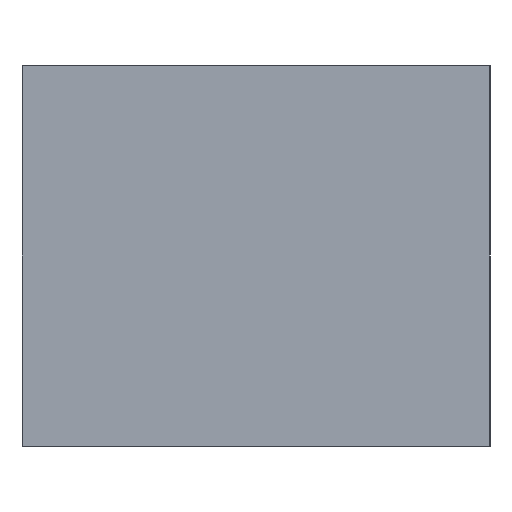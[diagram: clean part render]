
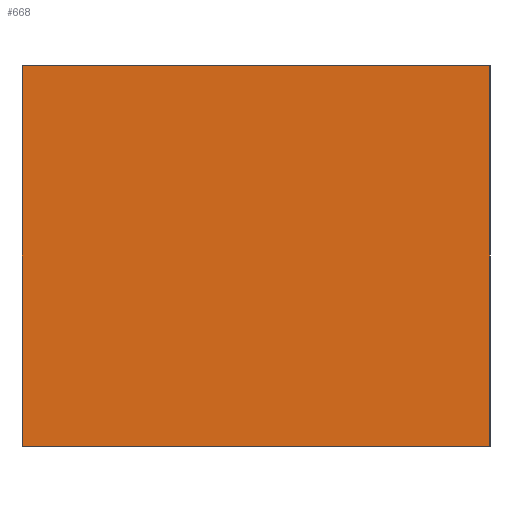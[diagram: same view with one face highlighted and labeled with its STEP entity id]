
A CAD part, left-side view. The second image highlights one B-rep face of the part: STEP entity #668.
In plain terms, the highlighted planar face has unit normal (-1, 0, 0).
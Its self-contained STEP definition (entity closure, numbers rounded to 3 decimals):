
#430=CARTESIAN_POINT('',(-0.8,-0.4,-0.));
#431=VERTEX_POINT('',#430);
#432=CARTESIAN_POINT('',(-0.8,-0.4,0.65));
#433=VERTEX_POINT('',#432);
#434=CARTESIAN_POINT('',(-0.8,-0.4,-0.));
#435=CARTESIAN_POINT('',(-0.8,-0.4,0.65));
#436=B_SPLINE_CURVE_WITH_KNOTS('',1,(#434,#435),.UNSPECIFIED.,.F.,.F.,(2,2),(0.,1.),.UNSPECIFIED.);
#437=EDGE_CURVE('',#431,#433,#436,.T.);
#494=CARTESIAN_POINT('',(-0.8,0.4,0.65));
#495=VERTEX_POINT('',#494);
#496=CARTESIAN_POINT('',(-0.8,0.4,-0.));
#497=VERTEX_POINT('',#496);
#498=CARTESIAN_POINT('',(-0.8,0.4,0.65));
#499=CARTESIAN_POINT('',(-0.8,0.4,0.));
#500=B_SPLINE_CURVE_WITH_KNOTS('',1,(#498,#499),.UNSPECIFIED.,.F.,.F.,(2,2),(0.,1.),.UNSPECIFIED.);
#501=EDGE_CURVE('',#495,#497,#500,.T.);
#645=CARTESIAN_POINT('',(-0.8,-0.4,-0.));
#646=CARTESIAN_POINT('',(-0.8,0.4,-0.));
#647=B_SPLINE_CURVE_WITH_KNOTS('',1,(#645,#646),.UNSPECIFIED.,.F.,.F.,(2,2),(0.,1.),.UNSPECIFIED.);
#648=EDGE_CURVE('',#431,#497,#647,.T.);
#653=CARTESIAN_POINT('',(-0.8,0.,0.325));
#654=DIRECTION('',(-1.,0.,0.));
#655=DIRECTION('',(0.,0.776,0.631));
#656=AXIS2_PLACEMENT_3D('',#653,#654,#655);
#657=PLANE('',#656);
#658=ORIENTED_EDGE('',*,*,#501,.T.);
#659=ORIENTED_EDGE('',*,*,#648,.F.);
#660=ORIENTED_EDGE('',*,*,#437,.T.);
#661=CARTESIAN_POINT('',(-0.8,-0.4,0.65));
#662=CARTESIAN_POINT('',(-0.8,0.4,0.65));
#663=B_SPLINE_CURVE_WITH_KNOTS('',1,(#661,#662),.UNSPECIFIED.,.F.,.F.,(2,2),(0.,1.),.UNSPECIFIED.);
#664=EDGE_CURVE('',#433,#495,#663,.T.);
#665=ORIENTED_EDGE('',*,*,#664,.T.);
#666=EDGE_LOOP('',(#658,#659,#660,#665));
#667=FACE_BOUND('',#666,.T.);
#668=ADVANCED_FACE(' DE      243',(#667),#657,.T.);
